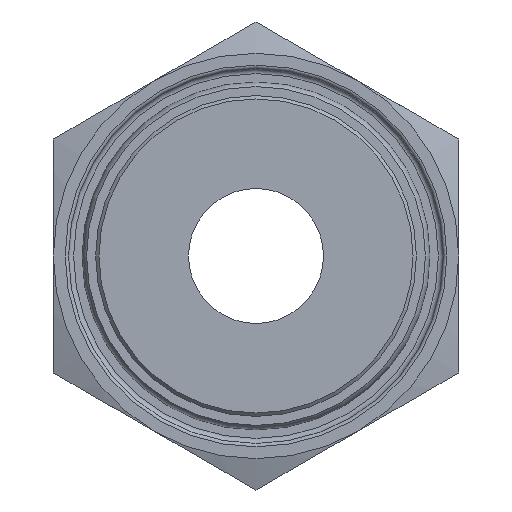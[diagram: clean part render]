
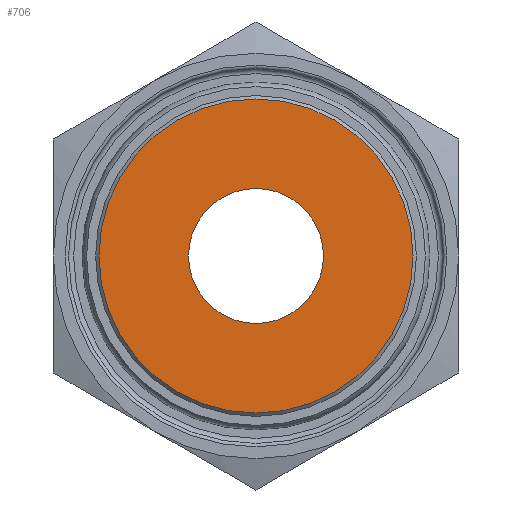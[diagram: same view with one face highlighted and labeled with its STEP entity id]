
A CAD part, front view. The second image highlights one B-rep face of the part: STEP entity #706.
In plain terms, the highlighted planar face has unit normal (0, -1, 0).
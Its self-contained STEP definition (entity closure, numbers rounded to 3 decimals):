
#72=FACE_BOUND('',#175,.T.);
#84=PLANE('',#861);
#121=FACE_OUTER_BOUND('',#174,.T.);
#174=EDGE_LOOP('',(#546));
#175=EDGE_LOOP('',(#547));
#273=CIRCLE('',#839,4.);
#288=CIRCLE('',#860,9.3);
#327=VERTEX_POINT('',#1218);
#341=VERTEX_POINT('',#1257);
#396=EDGE_CURVE('',#327,#327,#273,.T.);
#416=EDGE_CURVE('',#341,#341,#288,.T.);
#546=ORIENTED_EDGE('',*,*,#416,.F.);
#547=ORIENTED_EDGE('',*,*,#396,.T.);
#706=ADVANCED_FACE('',(#121,#72),#84,.T.);
#839=AXIS2_PLACEMENT_3D('',#1219,#984,#985);
#860=AXIS2_PLACEMENT_3D('',#1259,#1031,#1032);
#861=AXIS2_PLACEMENT_3D('',#1260,#1033,#1034);
#984=DIRECTION('center_axis',(0.,1.,0.));
#985=DIRECTION('ref_axis',(1.,0.,0.));
#1031=DIRECTION('center_axis',(0.,1.,0.));
#1032=DIRECTION('ref_axis',(1.,0.,0.));
#1033=DIRECTION('center_axis',(0.,-1.,0.));
#1034=DIRECTION('ref_axis',(0.,0.,-1.));
#1218=CARTESIAN_POINT('',(-4.,-10.,0.));
#1219=CARTESIAN_POINT('Origin',(0.,-10.,0.));
#1257=CARTESIAN_POINT('',(-9.3,-10.,0.));
#1259=CARTESIAN_POINT('Origin',(0.,-10.,0.));
#1260=CARTESIAN_POINT('Origin',(-9.5,-10.,0.));
